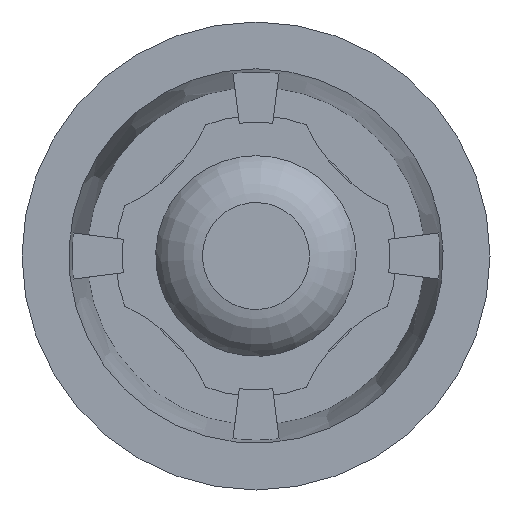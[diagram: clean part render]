
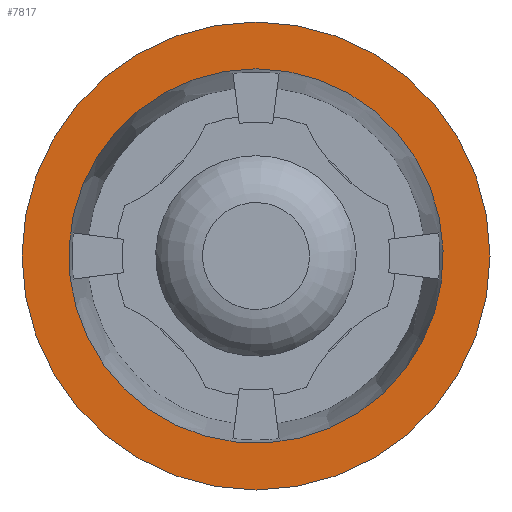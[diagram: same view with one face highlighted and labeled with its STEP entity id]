
A CAD part, front view. The second image highlights one B-rep face of the part: STEP entity #7817.
In plain terms, the highlighted planar face has unit normal (0, -1, 0).
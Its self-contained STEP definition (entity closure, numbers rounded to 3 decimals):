
#7817=ADVANCED_FACE('',(#14042,#14044),#14046,.T.);
#14042=FACE_BOUND('',#14043,.T.);
#14043=EDGE_LOOP('',(#20815,#20816));
#14044=FACE_BOUND('',#14045,.T.);
#14045=EDGE_LOOP('',(#20817,#20818));
#14046=PLANE('',#14047);
#14047=AXIS2_PLACEMENT_3D('',#14048,#14049,#14050);
#14048=CARTESIAN_POINT('',(0.,97.515,33.902));
#14049=DIRECTION('',(0.,-1.,0.));
#14050=DIRECTION('',(1.,0.,0.));
#20815=ORIENTED_EDGE('',*,*,#23395,.T.);
#20816=ORIENTED_EDGE('',*,*,#23394,.T.);
#20817=ORIENTED_EDGE('',*,*,#23419,.F.);
#20818=ORIENTED_EDGE('',*,*,#23420,.F.);
#23394=EDGE_CURVE('',#27600,#27601,#27602,.T.);
#23395=EDGE_CURVE('',#27601,#27600,#27603,.T.);
#23419=EDGE_CURVE('',#27650,#27651,#27652,.T.);
#23420=EDGE_CURVE('',#27651,#27650,#27653,.T.);
#27600=VERTEX_POINT('',#38532);
#27601=VERTEX_POINT('',#38533);
#27602=CIRCLE('',#38534,35.);
#27603=CIRCLE('',#38538,35.);
#27650=VERTEX_POINT('',#38649);
#27651=VERTEX_POINT('',#38650);
#27652=CIRCLE('',#38651,28.);
#27653=CIRCLE('',#38655,28.);
#38532=CARTESIAN_POINT('',(0.,97.515,-29.098));
#38533=CARTESIAN_POINT('',(0.,97.515,40.902));
#38534=AXIS2_PLACEMENT_3D('',#38535,#38536,#38537);
#38535=CARTESIAN_POINT('',(0.,97.515,5.902));
#38536=DIRECTION('',(0.,-1.,0.));
#38537=DIRECTION('',(0.,0.,-1.));
#38538=AXIS2_PLACEMENT_3D('',#38539,#38540,#38541);
#38539=CARTESIAN_POINT('',(0.,97.515,5.902));
#38540=DIRECTION('',(0.,-1.,0.));
#38541=DIRECTION('',(0.,0.,1.));
#38649=CARTESIAN_POINT('',(1.753,97.515,-22.044));
#38650=CARTESIAN_POINT('',(0.,97.515,33.902));
#38651=AXIS2_PLACEMENT_3D('',#38652,#38653,#38654);
#38652=CARTESIAN_POINT('',(0.,97.515,5.902));
#38653=DIRECTION('',(0.,-1.,0.));
#38654=DIRECTION('',(0.063,0.,-0.998));
#38655=AXIS2_PLACEMENT_3D('',#38656,#38657,#38658);
#38656=CARTESIAN_POINT('',(0.,97.515,5.902));
#38657=DIRECTION('',(0.,-1.,0.));
#38658=DIRECTION('',(0.,0.,1.));
